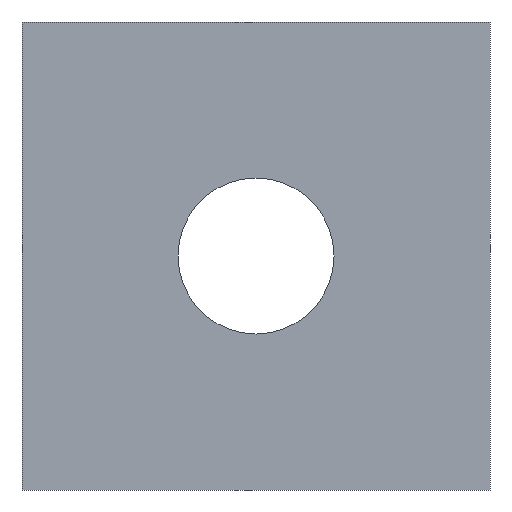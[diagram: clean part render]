
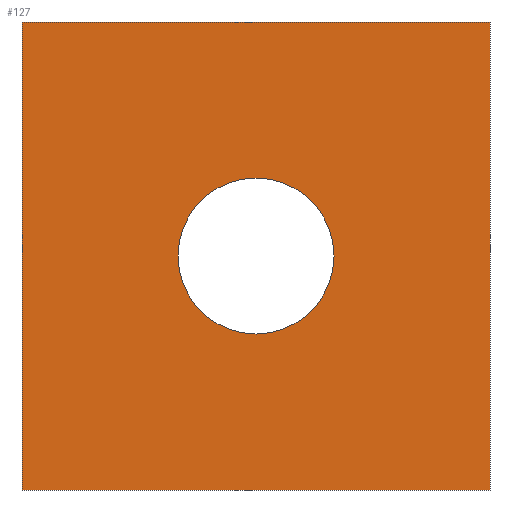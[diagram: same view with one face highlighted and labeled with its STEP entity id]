
A CAD part, front view. The second image highlights one B-rep face of the part: STEP entity #127.
In plain terms, the highlighted planar face has unit normal (0, -1, 0).
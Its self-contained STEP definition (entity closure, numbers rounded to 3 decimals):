
#21=CIRCLE('',#148,2.5);
#31=ORIENTED_EDGE('',*,*,#52,.T.);
#32=ORIENTED_EDGE('',*,*,#59,.F.);
#33=ORIENTED_EDGE('',*,*,#58,.F.);
#34=ORIENTED_EDGE('',*,*,#60,.T.);
#35=ORIENTED_EDGE('',*,*,#61,.T.);
#52=EDGE_CURVE('',#67,#65,#76,.T.);
#58=EDGE_CURVE('',#72,#69,#82,.T.);
#59=EDGE_CURVE('',#69,#65,#83,.T.);
#60=EDGE_CURVE('',#72,#67,#84,.T.);
#61=EDGE_CURVE('',#73,#73,#21,.T.);
#65=VERTEX_POINT('',#189);
#67=VERTEX_POINT('',#192);
#69=VERTEX_POINT('',#198);
#72=VERTEX_POINT('',#203);
#73=VERTEX_POINT('',#209);
#76=LINE('',#191,#88);
#82=LINE('',#204,#94);
#83=LINE('',#206,#95);
#84=LINE('',#207,#96);
#88=VECTOR('',#159,1000.);
#94=VECTOR('',#167,1000.);
#95=VECTOR('',#170,1000.);
#96=VECTOR('',#171,1000.);
#101=EDGE_LOOP('',(#31,#32,#33,#34));
#102=EDGE_LOOP('',(#35));
#111=FACE_BOUND('',#101,.T.);
#112=FACE_BOUND('',#102,.T.);
#121=PLANE('',#147);
#127=ADVANCED_FACE('',(#111,#112),#121,.F.);
#147=AXIS2_PLACEMENT_3D('',#205,#168,#169);
#148=AXIS2_PLACEMENT_3D('',#208,#172,#173);
#159=DIRECTION('',(0.,0.,1.));
#167=DIRECTION('',(0.,0.,1.));
#168=DIRECTION('',(0.,1.,0.));
#169=DIRECTION('',(0.,0.,1.));
#170=DIRECTION('',(1.,0.,0.));
#171=DIRECTION('',(1.,0.,0.));
#172=DIRECTION('',(0.,1.,0.));
#173=DIRECTION('',(0.,0.,1.));
#189=CARTESIAN_POINT('',(-1910.431,2018.908,-2165.805));
#191=CARTESIAN_POINT('',(-1910.431,2018.908,-2165.805));
#192=CARTESIAN_POINT('',(-1910.431,2018.908,-2180.805));
#198=CARTESIAN_POINT('',(-1925.431,2018.908,-2165.805));
#203=CARTESIAN_POINT('',(-1925.431,2018.908,-2180.805));
#204=CARTESIAN_POINT('',(-1925.431,2018.908,-2165.805));
#205=CARTESIAN_POINT('',(-1925.431,2018.908,-2165.805));
#206=CARTESIAN_POINT('',(-1925.431,2018.908,-2165.805));
#207=CARTESIAN_POINT('',(-1925.431,2018.908,-2180.805));
#208=CARTESIAN_POINT('',(-1917.931,2018.908,-2173.305));
#209=CARTESIAN_POINT('',(-1917.931,2018.908,-2170.805));
